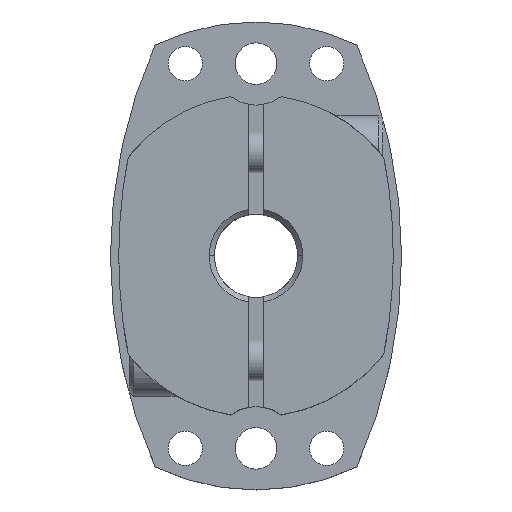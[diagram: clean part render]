
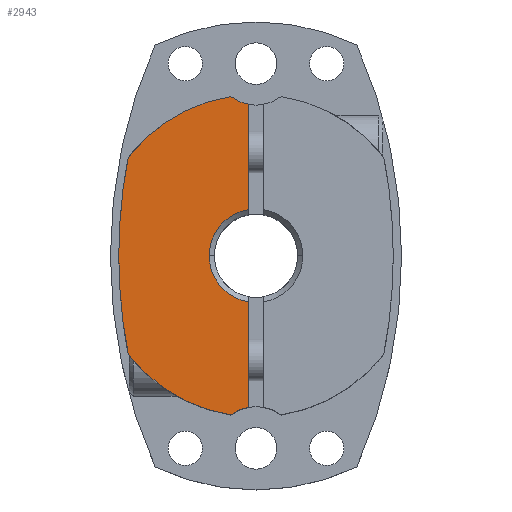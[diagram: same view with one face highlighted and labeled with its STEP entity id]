
A CAD part, top view. The second image highlights one B-rep face of the part: STEP entity #2943.
In plain terms, the highlighted planar face has unit normal (0, 0, 1).
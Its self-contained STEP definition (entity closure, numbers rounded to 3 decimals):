
#378=CARTESIAN_POINT('',(-4.5,0.,14.5));
#379=VERTEX_POINT('',#378);
#387=CARTESIAN_POINT('',(-0.75,4.437,14.5));
#388=VERTEX_POINT('',#387);
#402=CARTESIAN_POINT('',(0.,0.0,14.5));
#403=DIRECTION('',(0.0,0.0,1.0));
#404=DIRECTION('',(-1.0,0.0,0.0));
#405=AXIS2_PLACEMENT_3D('',#402,#403,#404);
#406=CIRCLE('',#405,4.5);
#407=EDGE_CURVE('',#388,#379,#406,.T.);
#547=CARTESIAN_POINT('',(-13.2,0.,14.5));
#548=VERTEX_POINT('',#547);
#557=CARTESIAN_POINT('',(-12.283,9.454,14.5));
#558=VERTEX_POINT('',#557);
#559=CARTESIAN_POINT('',(36.,0.,14.5));
#560=DIRECTION('',(0.0,0.0,-1.0));
#561=DIRECTION('',(1.0,0.0,0.0));
#562=AXIS2_PLACEMENT_3D('',#559,#560,#561);
#563=CIRCLE('',#562,49.2);
#564=EDGE_CURVE('',#548,#558,#563,.T.);
#1884=CARTESIAN_POINT('',(-2.414,-15.311,14.5));
#1885=VERTEX_POINT('',#1884);
#1892=CARTESIAN_POINT('',(-12.283,-9.454,14.5));
#1893=VERTEX_POINT('',#1892);
#1894=CARTESIAN_POINT('',(0.,0.,14.5));
#1895=DIRECTION('',(0.0,0.0,-1.0));
#1896=DIRECTION('',(1.0,0.0,0.0));
#1897=AXIS2_PLACEMENT_3D('',#1894,#1895,#1896);
#1898=CIRCLE('',#1897,15.5);
#1899=EDGE_CURVE('',#1885,#1893,#1898,.T.);
#2506=CARTESIAN_POINT('',(36.,0.,14.5));
#2507=DIRECTION('',(0.0,0.0,-1.0));
#2508=DIRECTION('',(1.0,0.0,0.0));
#2509=AXIS2_PLACEMENT_3D('',#2506,#2507,#2508);
#2510=CIRCLE('',#2509,49.2);
#2511=EDGE_CURVE('',#1893,#548,#2510,.T.);
#2689=CARTESIAN_POINT('',(-0.75,-14.571,14.5));
#2690=VERTEX_POINT('',#2689);
#2697=CARTESIAN_POINT('',(0.,-18.5,14.5));
#2698=DIRECTION('',(0.0,0.0,-1.0));
#2699=DIRECTION('',(1.0,0.0,0.0));
#2700=AXIS2_PLACEMENT_3D('',#2697,#2698,#2699);
#2701=CIRCLE('',#2700,4.0);
#2702=EDGE_CURVE('',#1885,#2690,#2701,.T.);
#2787=CARTESIAN_POINT('',(-2.414,15.311,14.5));
#2788=VERTEX_POINT('',#2787);
#2797=CARTESIAN_POINT('',(-0.75,14.571,14.5));
#2798=VERTEX_POINT('',#2797);
#2799=CARTESIAN_POINT('',(0.,18.5,14.5));
#2800=DIRECTION('',(0.0,0.0,-1.0));
#2801=DIRECTION('',(1.0,0.0,0.0));
#2802=AXIS2_PLACEMENT_3D('',#2799,#2800,#2801);
#2803=CIRCLE('',#2802,4.0);
#2804=EDGE_CURVE('',#2798,#2788,#2803,.T.);
#2902=CARTESIAN_POINT('',(0.,0.,14.5));
#2903=DIRECTION('',(0.0,0.0,1.0));
#2904=DIRECTION('',(1.0,0.0,0.0));
#2905=AXIS2_PLACEMENT_3D('',#2902,#2903,#2904);
#2906=PLANE('',#2905);
#2907=ORIENTED_EDGE('',*,*,#2702,.T.);
#2908=CARTESIAN_POINT('',(-0.75,-4.437,14.5));
#2909=VERTEX_POINT('',#2908);
#2910=CARTESIAN_POINT('',(-0.75,-14.571,14.5));
#2911=DIRECTION('',(0.0,1.0,0.0));
#2912=VECTOR('',#2911,10.134);
#2913=LINE('',#2910,#2912);
#2914=EDGE_CURVE('',#2690,#2909,#2913,.T.);
#2915=ORIENTED_EDGE('',*,*,#2914,.T.);
#2916=CARTESIAN_POINT('',(0.,0.0,14.5));
#2917=DIRECTION('',(0.0,0.0,1.0));
#2918=DIRECTION('',(-1.0,0.0,0.0));
#2919=AXIS2_PLACEMENT_3D('',#2916,#2917,#2918);
#2920=CIRCLE('',#2919,4.5);
#2921=EDGE_CURVE('',#379,#2909,#2920,.T.);
#2922=ORIENTED_EDGE('',*,*,#2921,.F.);
#2923=ORIENTED_EDGE('',*,*,#407,.F.);
#2924=CARTESIAN_POINT('',(-0.75,4.437,14.5));
#2925=DIRECTION('',(0.0,1.0,0.0));
#2926=VECTOR('',#2925,10.134);
#2927=LINE('',#2924,#2926);
#2928=EDGE_CURVE('',#388,#2798,#2927,.T.);
#2929=ORIENTED_EDGE('',*,*,#2928,.T.);
#2930=ORIENTED_EDGE('',*,*,#2804,.T.);
#2931=CARTESIAN_POINT('',(0.,0.,14.5));
#2932=DIRECTION('',(0.0,0.0,-1.0));
#2933=DIRECTION('',(1.0,0.0,0.0));
#2934=AXIS2_PLACEMENT_3D('',#2931,#2932,#2933);
#2935=CIRCLE('',#2934,15.5);
#2936=EDGE_CURVE('',#558,#2788,#2935,.T.);
#2937=ORIENTED_EDGE('',*,*,#2936,.F.);
#2938=ORIENTED_EDGE('',*,*,#564,.F.);
#2939=ORIENTED_EDGE('',*,*,#2511,.F.);
#2940=ORIENTED_EDGE('',*,*,#1899,.F.);
#2941=EDGE_LOOP('',(#2907,#2915,#2922,#2923,#2929,#2930,#2937,#2938,#2939,#2940));
#2942=FACE_OUTER_BOUND('',#2941,.T.);
#2943=ADVANCED_FACE('',(#2942),#2906,.T.);
